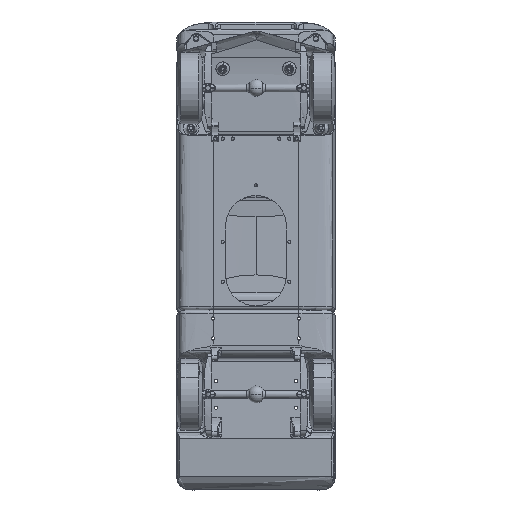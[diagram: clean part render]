
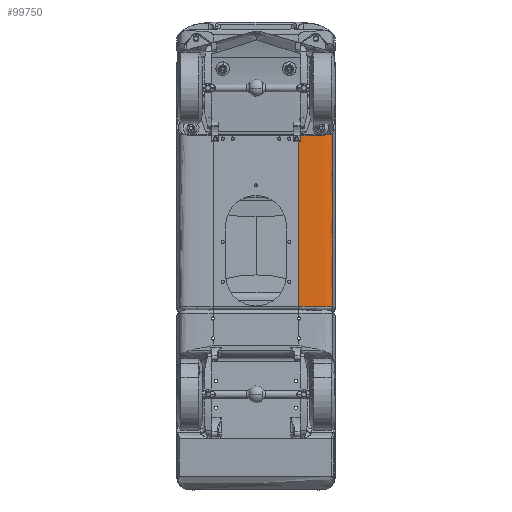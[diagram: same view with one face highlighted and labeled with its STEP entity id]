
A CAD part, front view. The second image highlights one B-rep face of the part: STEP entity #99750.
In plain terms, the highlighted free-form (B-spline) face has degree [4, 1] with [5, 2] control points.
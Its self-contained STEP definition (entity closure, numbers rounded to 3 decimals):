
#363 = CARTESIAN_POINT ( 'NONE',  ( 32.234, 14.893, 280.452 ) ) ;
#1666 = CARTESIAN_POINT ( 'NONE',  ( 57.087, 18.574, 195.846 ) ) ;
#4740 = CARTESIAN_POINT ( 'NONE',  ( 53.438, 15.733, 194.847 ) ) ;
#7005 = VERTEX_POINT ( 'NONE', #115496 ) ;
#9123 = ORIENTED_EDGE ( 'NONE', *, *, #43058, .T. ) ;
#10269 = CARTESIAN_POINT ( 'NONE',  ( 57.47, 19.91, 65.578 ) ) ;
#10761 = CARTESIAN_POINT ( 'NONE',  ( 32.234, 14.893, 66.052 ) ) ;
#11524 = CARTESIAN_POINT ( 'NONE',  ( 49.945, 15.24, 65.994 ) ) ;
#13028 = CARTESIAN_POINT ( 'NONE',  ( 57.201, 18.801, 65.691 ) ) ;
#15484 = CARTESIAN_POINT ( 'NONE',  ( 32.234, 14.893, 197.041 ) ) ;
#17094 = CARTESIAN_POINT ( 'NONE',  ( 52.312, 15.5, 194.749 ) ) ;
#20041 = CARTESIAN_POINT ( 'NONE',  ( 55.471, 16.548, 65.841 ) ) ;
#23067 = CARTESIAN_POINT ( 'NONE',  ( 47.091, 15.107, 66.015 ) ) ;
#25597 = CARTESIAN_POINT ( 'NONE',  ( 55.768, 16.796, 195.254 ) ) ;
#27796 = CARTESIAN_POINT ( 'NONE',  ( 32.234, 14.893, 64.794 ) ) ;
#29351 = CARTESIAN_POINT ( 'NONE',  ( 57.47, 19.91, 197.041 ) ) ;
#29827 = B_SPLINE_CURVE_WITH_KNOTS ( 'NONE', 3,
 ( #10761, #46240, #32335, #93448, #140743, #81823, #129167, #23067, #117532, #11524, #102023, #149286, #31592, #43177, #78787, #126097, #20041, #114437, #60115, #50016, #38417, #13028, #49269, #36137 ),
 .UNSPECIFIED., .F., .F.,
 ( 4, 2, 2, 2, 2, 2, 2, 2, 2, 2, 2, 4 ),
 ( 0., 0.007, 0.01, 0.014, 0.017, 0.019, 0.021, 0.022, 0.024, 0.025, 0.026, 0.027 ),
 .UNSPECIFIED. ) ;
#29870 = DIRECTION ( 'NONE',  ( 0., 0., 1. ) ) ;
#31592 = CARTESIAN_POINT ( 'NONE',  ( 52.22, 15.486, 65.957 ) ) ;
#31680 = CARTESIAN_POINT ( 'NONE',  ( 47.173, 15.109, 194.576 ) ) ;
#32335 = CARTESIAN_POINT ( 'NONE',  ( 36.805, 14.994, 66.034 ) ) ;
#35967 = VERTEX_POINT ( 'NONE', #143058 ) ;
#36137 = CARTESIAN_POINT ( 'NONE',  ( 57.47, 19.91, 65.578 ) ) ;
#37157 = CARTESIAN_POINT ( 'NONE',  ( 56.708, 17.832, 195.608 ) ) ;
#38417 = CARTESIAN_POINT ( 'NONE',  ( 56.824, 18.029, 65.75 ) ) ;
#40991 = CARTESIAN_POINT ( 'NONE',  ( 43.726, 15.056, 194.551 ) ) ;
#41768 = CARTESIAN_POINT ( 'NONE',  ( 34.532, 14.957, 194.505 ) ) ;
#42504 = CARTESIAN_POINT ( 'NONE',  ( 32.234, 14.893, 194.474 ) ) ;
#43058 = EDGE_CURVE ( 'NONE', #35967, #125333, #29827, .T. ) ;
#43177 = CARTESIAN_POINT ( 'NONE',  ( 53.337, 15.709, 65.927 ) ) ;
#43200 = CARTESIAN_POINT ( 'NONE',  ( 48.598, 15.351, 64.794 ) ) ;
#44454 = CARTESIAN_POINT ( 'NONE',  ( 32.234, 14.893, 194.474 ) ) ;
#46240 = CARTESIAN_POINT ( 'NONE',  ( 34.519, 14.957, 66.041 ) ) ;
#49269 = CARTESIAN_POINT ( 'NONE',  ( 57.359, 19.348, 65.639 ) ) ;
#50016 = CARTESIAN_POINT ( 'NONE',  ( 56.674, 17.778, 65.766 ) ) ;
#52349 = ORIENTED_EDGE ( 'NONE', *, *, #90182, .T. ) ;
#53388 = CARTESIAN_POINT ( 'NONE',  ( 41.427, 15.037, 194.542 ) ) ;
#54890 = CARTESIAN_POINT ( 'NONE',  ( 40.278, 15.029, 194.538 ) ) ;
#58160 = EDGE_CURVE ( 'NONE', #79348, #35967, #118796, .T. ) ;
#60115 = CARTESIAN_POINT ( 'NONE',  ( 56.328, 17.322, 65.793 ) ) ;
#60385 = CARTESIAN_POINT ( 'NONE',  ( 57.351, 19.369, 196.092 ) ) ;
#61123 = CARTESIAN_POINT ( 'NONE',  ( 55.538, 16.629, 195.193 ) ) ;
#61855 = ORIENTED_EDGE ( 'NONE', *, *, #134973, .T. ) ;
#67695 = VECTOR ( 'NONE', #29870, 1000. ) ;
#73335 = ORIENTED_EDGE ( 'NONE', *, *, #58160, .T. ) ;
#73668 = B_SPLINE_CURVE_WITH_KNOTS ( 'NONE', 3,
 ( #122332, #75029, #60385, #106903, #1666, #95984, #37157, #84358, #131708, #25597, #61123, #101356, #137011, #78113, #4740, #17094, #110701, #134739, #77369, #126193, #31680, #147873, #40991, #53388, #54890, #149375, #41768, #42504 ),
 .UNSPECIFIED., .F., .F.,
 ( 4, 2, 2, 2, 2, 2, 2, 2, 2, 2, 2, 2, 2, 4 ),
 ( 0.006, 0.007, 0.008, 0.008, 0.009, 0.01, 0.011, 0.013, 0.015, 0.016, 0.02, 0.023, 0.027, 0.034 ),
 .UNSPECIFIED. ) ;
#75029 = CARTESIAN_POINT ( 'NONE',  ( 57.416, 19.639, 196.174 ) ) ;
#77304 = CARTESIAN_POINT ( 'NONE',  ( 57.47, 19.91, 64.794 ) ) ;
#77369 = CARTESIAN_POINT ( 'NONE',  ( 50.037, 15.247, 194.638 ) ) ;
#78113 = CARTESIAN_POINT ( 'NONE',  ( 53.999, 15.886, 194.91 ) ) ;
#78787 = CARTESIAN_POINT ( 'NONE',  ( 53.888, 15.852, 65.908 ) ) ;
#79348 = VERTEX_POINT ( 'NONE', #44454 ) ;
#81823 = CARTESIAN_POINT ( 'NONE',  ( 43.663, 15.055, 66.024 ) ) ;
#84358 = CARTESIAN_POINT ( 'NONE',  ( 56.374, 17.376, 195.456 ) ) ;
#90182 = EDGE_CURVE ( 'NONE', #125333, #7005, #102575, .T. ) ;
#93448 = CARTESIAN_POINT ( 'NONE',  ( 40.234, 15.029, 66.029 ) ) ;
#95984 = CARTESIAN_POINT ( 'NONE',  ( 56.848, 18.073, 195.686 ) ) ;
#98412 = B_SPLINE_SURFACE_WITH_KNOTS ( 'NONE', 4, 1, ( 
 ( #15484, #27796 ),
 ( #124594, #43200 ),
 ( #102809, #150817 ),
 ( #137705, #135441 ),
 ( #29351, #77304 ) ),
 .UNSPECIFIED., .F., .F., .F.,
 ( 5, 5 ),
 ( 2, 2 ),
 ( 0., 0.724 ),
 ( 0., 1. ),
 .UNSPECIFIED. ) ;
#99750 = ADVANCED_FACE ( 'NONE', ( #134672 ), #98412, .F. ) ;
#101356 = CARTESIAN_POINT ( 'NONE',  ( 55.047, 16.335, 195.084 ) ) ;
#102023 = CARTESIAN_POINT ( 'NONE',  ( 50.517, 15.284, 65.987 ) ) ;
#102575 = LINE ( 'NONE', #149845, #67695 ) ;
#102809 = CARTESIAN_POINT ( 'NONE',  ( 54.729, 14.367, 197.041 ) ) ;
#106903 = CARTESIAN_POINT ( 'NONE',  ( 57.186, 18.835, 195.927 ) ) ;
#110701 = CARTESIAN_POINT ( 'NONE',  ( 51.746, 15.419, 194.714 ) ) ;
#114437 = CARTESIAN_POINT ( 'NONE',  ( 56.131, 17.114, 65.805 ) ) ;
#115496 = CARTESIAN_POINT ( 'NONE',  ( 57.47, 19.91, 196.257 ) ) ;
#117532 = CARTESIAN_POINT ( 'NONE',  ( 48.233, 15.138, 66.01 ) ) ;
#118796 = LINE ( 'NONE', #363, #142657 ) ;
#119546 = DIRECTION ( 'NONE',  ( 0., 0., -1. ) ) ;
#122332 = CARTESIAN_POINT ( 'NONE',  ( 57.47, 19.91, 196.257 ) ) ;
#124594 = CARTESIAN_POINT ( 'NONE',  ( 48.598, 15.351, 197.041 ) ) ;
#125333 = VERTEX_POINT ( 'NONE', #10269 ) ;
#126097 = CARTESIAN_POINT ( 'NONE',  ( 54.962, 16.272, 65.865 ) ) ;
#126193 = CARTESIAN_POINT ( 'NONE',  ( 48.321, 15.141, 194.59 ) ) ;
#129167 = CARTESIAN_POINT ( 'NONE',  ( 44.806, 15.065, 66.022 ) ) ;
#131708 = CARTESIAN_POINT ( 'NONE',  ( 56.185, 17.169, 195.385 ) ) ;
#134672 = FACE_OUTER_BOUND ( 'NONE', #138445, .T. ) ;
#134739 = CARTESIAN_POINT ( 'NONE',  ( 50.608, 15.292, 194.658 ) ) ;
#134973 = EDGE_CURVE ( 'NONE', #7005, #79348, #73668, .T. ) ;
#135441 = CARTESIAN_POINT ( 'NONE',  ( 56.807, 16.562, 64.794 ) ) ;
#137011 = CARTESIAN_POINT ( 'NONE',  ( 54.79, 16.211, 195.037 ) ) ;
#137705 = CARTESIAN_POINT ( 'NONE',  ( 56.807, 16.562, 197.041 ) ) ;
#138445 = EDGE_LOOP ( 'NONE', ( #73335, #9123, #52349, #61855 ) ) ;
#140743 = CARTESIAN_POINT ( 'NONE',  ( 41.377, 15.037, 66.027 ) ) ;
#142657 = VECTOR ( 'NONE', #119546, 1000. ) ;
#143058 = CARTESIAN_POINT ( 'NONE',  ( 32.234, 14.893, 66.052 ) ) ;
#147873 = CARTESIAN_POINT ( 'NONE',  ( 44.875, 15.066, 194.555 ) ) ;
#149286 = CARTESIAN_POINT ( 'NONE',  ( 51.655, 15.407, 65.969 ) ) ;
#149375 = CARTESIAN_POINT ( 'NONE',  ( 36.83, 14.995, 194.522 ) ) ;
#149845 = CARTESIAN_POINT ( 'NONE',  ( 57.47, 19.91, 63.122 ) ) ;
#150817 = CARTESIAN_POINT ( 'NONE',  ( 54.729, 14.367, 64.794 ) ) ;
